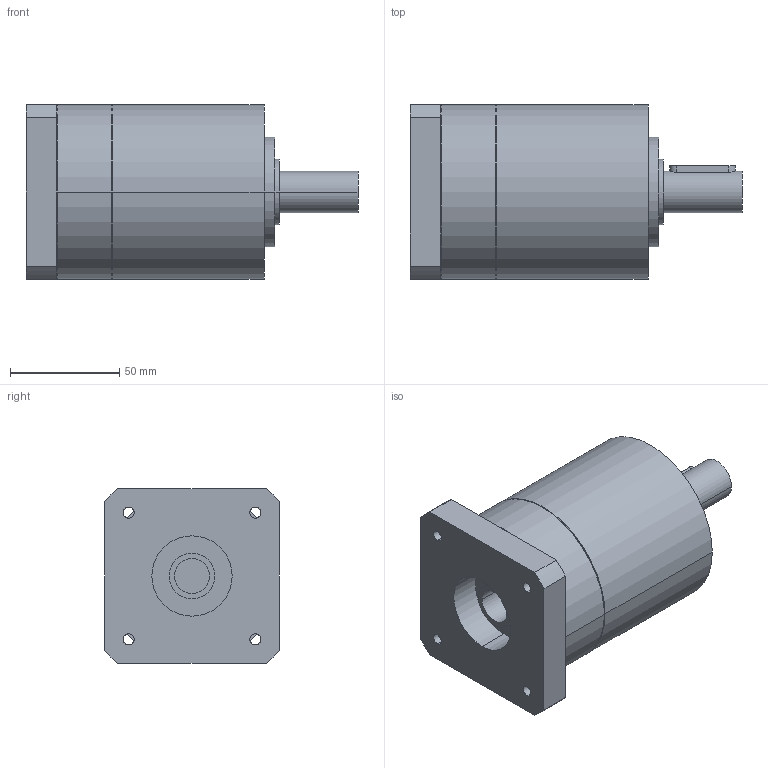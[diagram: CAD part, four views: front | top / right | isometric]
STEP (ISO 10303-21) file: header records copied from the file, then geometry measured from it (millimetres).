
FILE_DESCRIPTION(('CoCreate Modeling STEP Export'),'2;1');
FILE_NAME('GPR100_ig-3-4-5-6_19_B14_16_P27.stp','2014-08-26T10:08:24',(''),(''),'CoCreate Modeling STEP processor for AP214 (Solid Model)','CoCreate Modeling 16.00C 25-Feb-2009 (C) Parametric Technology GmbH','');
FILE_SCHEMA(('AUTOMOTIVE_DESIGN { 1 0 10303 214 1 1 1 1 }'));
Length unit declared in the file: millimetre
Products named in the file (2): GPR100_ig-3-4-5-6_19_B14_16_P27
Assembly tree (1 placements, depth 2):
  GPR100_ig-3-4-5-6_19_B14_16_P27
    GPR100_ig-3-4-5-6_19_B14_16_P27
Bounding box: 152 x 80 x 80 mm (x, y, z)
Volume: 564733.5 mm3; surface area: 50486.7 mm2
Topology: 1 solids, 1 shells, 71 faces, 195 edges, 133 vertices
Faces by surface type: cylinder 40, plane 25, cone 6
Entity records: 1957 total; most frequent: ORIENTED_EDGE 386, CARTESIAN_POINT 361, DIRECTION 264, EDGE_CURVE 193, VERTEX_POINT 133, AXIS2_PLACEMENT_3D 100, EDGE_LOOP 88, FACE_OUTER_BOUND 71
